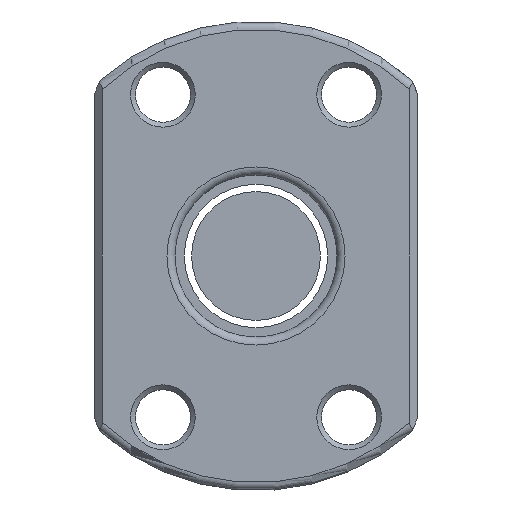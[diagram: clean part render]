
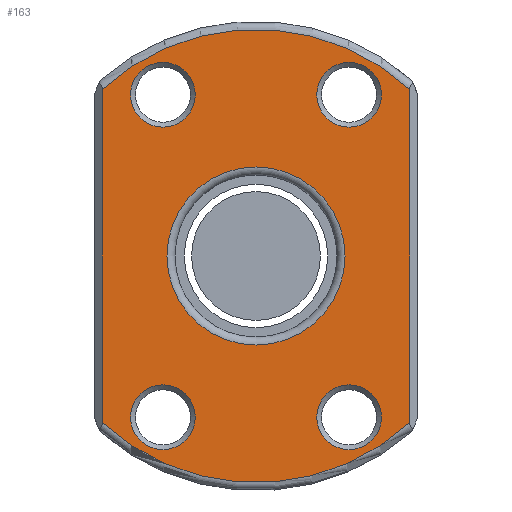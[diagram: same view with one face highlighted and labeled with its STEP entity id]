
A CAD part, front view. The second image highlights one B-rep face of the part: STEP entity #163.
In plain terms, the highlighted planar face has unit normal (0, -1, 0).
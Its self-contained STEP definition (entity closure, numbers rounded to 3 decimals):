
#54=LINE('',#973,#78);
#55=LINE('',#977,#79);
#78=VECTOR('',#792,1.);
#79=VECTOR('',#795,1.);
#126=PLANE('',#694);
#163=ADVANCED_FACE('',(#218,#219,#220,#221,#222,#223),#126,.T.);
#218=FACE_BOUND('',#278,.T.);
#219=FACE_BOUND('',#279,.T.);
#220=FACE_BOUND('',#280,.T.);
#221=FACE_BOUND('',#281,.T.);
#222=FACE_BOUND('',#282,.T.);
#223=FACE_BOUND('',#283,.T.);
#278=EDGE_LOOP('',(#354));
#279=EDGE_LOOP('',(#355));
#280=EDGE_LOOP('',(#356));
#281=EDGE_LOOP('',(#357));
#282=EDGE_LOOP('',(#358));
#283=EDGE_LOOP('',(#359,#360,#361,#362));
#354=ORIENTED_EDGE('',*,*,#567,.T.);
#355=ORIENTED_EDGE('',*,*,#568,.T.);
#356=ORIENTED_EDGE('',*,*,#569,.T.);
#357=ORIENTED_EDGE('',*,*,#570,.T.);
#358=ORIENTED_EDGE('',*,*,#571,.T.);
#359=ORIENTED_EDGE('',*,*,#572,.T.);
#360=ORIENTED_EDGE('',*,*,#573,.T.);
#361=ORIENTED_EDGE('',*,*,#574,.T.);
#362=ORIENTED_EDGE('',*,*,#575,.T.);
#506=VERTEX_POINT('',#961);
#507=VERTEX_POINT('',#963);
#508=VERTEX_POINT('',#965);
#509=VERTEX_POINT('',#967);
#510=VERTEX_POINT('',#969);
#511=VERTEX_POINT('',#971);
#512=VERTEX_POINT('',#972);
#513=VERTEX_POINT('',#974);
#514=VERTEX_POINT('',#976);
#567=EDGE_CURVE('',#506,#506,#644,.T.);
#568=EDGE_CURVE('',#507,#507,#645,.T.);
#569=EDGE_CURVE('',#508,#508,#646,.T.);
#570=EDGE_CURVE('',#509,#509,#647,.T.);
#571=EDGE_CURVE('',#510,#510,#648,.T.);
#572=EDGE_CURVE('',#511,#512,#649,.T.);
#573=EDGE_CURVE('',#512,#513,#54,.T.);
#574=EDGE_CURVE('',#513,#514,#650,.T.);
#575=EDGE_CURVE('',#514,#511,#55,.T.);
#644=CIRCLE('',#687,2.);
#645=CIRCLE('',#688,2.);
#646=CIRCLE('',#689,2.);
#647=CIRCLE('',#690,2.);
#648=CIRCLE('',#691,5.5);
#649=CIRCLE('',#692,14.);
#650=CIRCLE('',#693,14.);
#687=AXIS2_PLACEMENT_3D('',#960,#780,#781);
#688=AXIS2_PLACEMENT_3D('',#962,#782,#783);
#689=AXIS2_PLACEMENT_3D('',#964,#784,#785);
#690=AXIS2_PLACEMENT_3D('',#966,#786,#787);
#691=AXIS2_PLACEMENT_3D('',#968,#788,#789);
#692=AXIS2_PLACEMENT_3D('',#970,#790,#791);
#693=AXIS2_PLACEMENT_3D('',#975,#793,#794);
#694=AXIS2_PLACEMENT_3D('',#978,#796,#797);
#780=DIRECTION('',(0.,1.,0.));
#781=DIRECTION('',(0.,0.,-1.));
#782=DIRECTION('',(0.,1.,0.));
#783=DIRECTION('',(0.,0.,-1.));
#784=DIRECTION('',(0.,1.,0.));
#785=DIRECTION('',(0.,0.,-1.));
#786=DIRECTION('',(0.,1.,0.));
#787=DIRECTION('',(0.,0.,-1.));
#788=DIRECTION('',(0.,1.,0.));
#789=DIRECTION('',(0.,0.,-1.));
#790=DIRECTION('',(0.,-1.,0.));
#791=DIRECTION('',(0.,0.,-1.));
#792=DIRECTION('',(0.,0.,1.));
#793=DIRECTION('',(0.,-1.,0.));
#794=DIRECTION('',(0.,0.,-1.));
#795=DIRECTION('',(0.,0.,-1.));
#796=DIRECTION('',(0.,-1.,0.));
#797=DIRECTION('',(0.,0.,-1.));
#960=CARTESIAN_POINT('',(-5.75,0.,9.959));
#961=CARTESIAN_POINT('',(-5.75,0.,7.959));
#962=CARTESIAN_POINT('',(5.75,0.,-9.959));
#963=CARTESIAN_POINT('',(5.75,0.,-11.959));
#964=CARTESIAN_POINT('',(-5.75,0.,-9.959));
#965=CARTESIAN_POINT('',(-5.75,0.,-11.959));
#966=CARTESIAN_POINT('',(5.75,0.,9.959));
#967=CARTESIAN_POINT('',(5.75,0.,7.959));
#968=CARTESIAN_POINT('',(0.,0.,0.));
#969=CARTESIAN_POINT('',(0.,0.,-5.5));
#970=CARTESIAN_POINT('',(0.,0.,0.));
#971=CARTESIAN_POINT('',(-9.5,0.,-10.283));
#972=CARTESIAN_POINT('',(9.5,0.,-10.283));
#973=CARTESIAN_POINT('',(9.5,0.,9.798));
#974=CARTESIAN_POINT('',(9.5,0.,10.283));
#975=CARTESIAN_POINT('',(0.,0.,0.));
#976=CARTESIAN_POINT('',(-9.5,0.,10.283));
#977=CARTESIAN_POINT('',(-9.5,0.,-9.798));
#978=CARTESIAN_POINT('',(0.,0.,0.));
